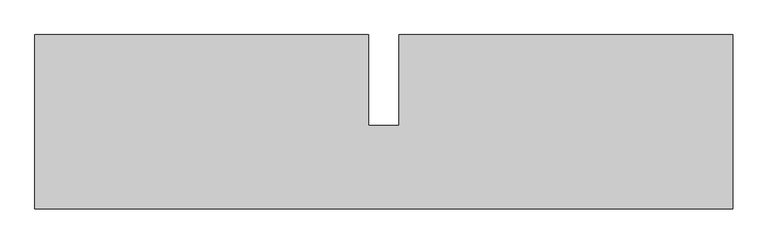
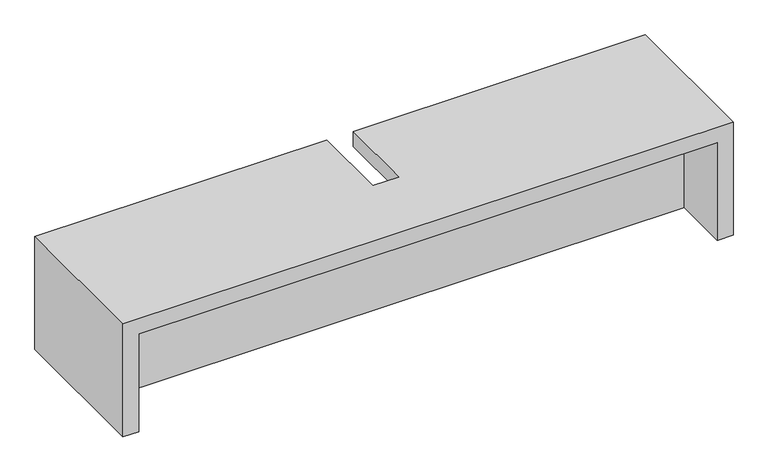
"""IFC4 building model written with IfcOpenShell, lengths in millimetres: furniture geometry, C07 Mesa circulación doble : C07 Mesa circulación doble."""

from ifc_helpers import new_model, si_unit, origin, origin_with_axes, place, context, project, spatial, polyline, outline, extrude, faceted_brep, source, transform, mapped, element, save


def furniture_7bc934b7(model_context):
    return source(origin(), model_context, "Body", "SolidModel", [
        faceted_brep([(2300.0, 575.0, 0.0), (2180.0, 575.0, 0.0), (2180.0, 575.0, 780.0), (100.0, 575.0, 780.0), (100.0, 575.0, 900.0), (2300.0, 575.0, 900.0), (-2300.0, 575.0, 900.0), (-100.0, 575.0, 900.0), (-100.0, 575.0, 780.0), (-2180.0, 575.0, 780.0), (-2180.0, 575.0, 0.0), (-2300.0, 575.0, 0.0), (-2300.0, -575.0, 0.0), (-2300.0, -575.0, 900.0), (-2180.0, -575.0, 0.0), (-2180.0, -575.0, 780.0), (2180.0, -575.0, 780.0), (-100.0, -25.0, 780.0), (100.0, -25.0, 780.0), (2180.0, -575.0, 0.0), (2300.0, -575.0, 0.0), (2300.0, -575.0, 900.0), (100.0, -25.0, 900.0), (-100.0, -25.0, 900.0)], [[[0, 1, 2, 3, 4, 5]], [[6, 7, 8, 9, 10, 11]], [[6, 11, 12, 13]], [[12, 11, 10, 14]], [[14, 10, 9, 15]], [[3, 2, 16, 15, 9, 8, 17, 18]], [[16, 2, 1, 19]], [[19, 1, 0, 20]], [[20, 0, 5, 21]], [[7, 6, 13, 21, 5, 4, 22, 23]], [[8, 7, 23, 17]], [[4, 3, 18, 22]], [[13, 12, 14, 15, 16, 19, 20, 21]], [[23, 22, 18, 17]]]),
        extrude(outline(polyline([(2180.0, -25.0), (2180.0, -145.0), (-2180.0, -145.0), (-2180.0, -25.0), (2180.0, -25.0)])), origin_with_axes(), (0.0, 0.0, 1.0), 780.0),
    ])


if __name__ == "__main__":
    model = new_model("IFC4")
    model_context = context("Model", 3, world=origin())
    ifc_project = project(units=[si_unit("LENGTHUNIT", "METRE", prefix="MILLI")], contexts=[model_context])
    site = spatial("IfcSite", under=ifc_project)
    building = spatial("IfcBuilding", under=site)
    placement = place(None, origin())
    furniture_shape = furniture_7bc934b7(model_context)
    element("IfcFurniture", 1, ObjectType="C07 Mesa circulación doble : C07 Mesa circulación doble", at=placement, inside=building, context=model_context, shape_type="MappedRepresentation", body=[
        mapped(furniture_shape, transform((0.0, 0.0, 0.0), x_axis=(1.0, 0.0, 0.0), y_axis=(0.0, 1.0, 0.0), z_axis=(0.0, 0.0, 1.0))),
    ])
    save(model, "model.ifc")
